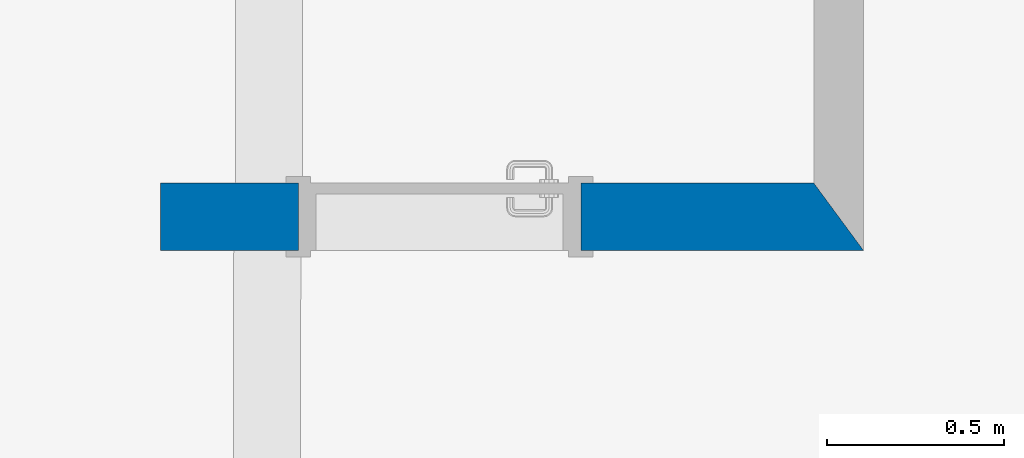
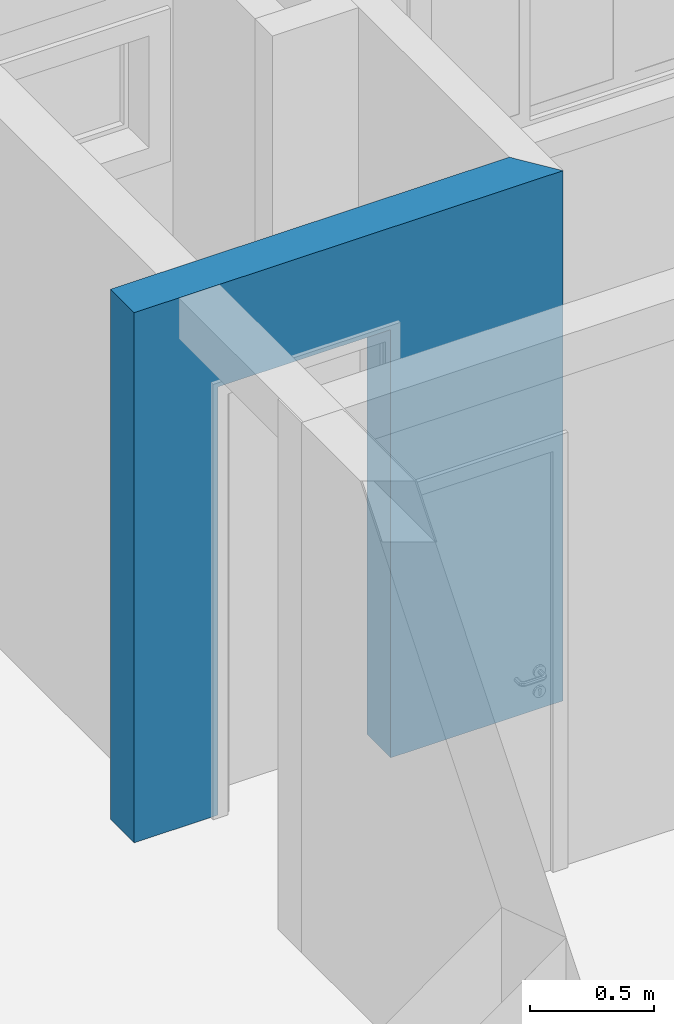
# One storey, part 7 of 43: 1 wall, 1 opening.
"""IFC2X3 building model written with IfcOpenShell, lengths in millimetres."""

from ifc_helpers import new_model, entity, si_unit, converted_unit, derived_unit, money_unit, direction, frame, origin_with_axes, origin_2d_with_axis, place, context, subcontext, project, spatial, polyline, rectangle, outline, extrude, material, layer, layer_set, layer_usage, type_object, element, save


model = new_model("IFC2X3")

# Units and contexts
model_context = context("Model", 3, precision=0.01, world=origin_with_axes(), true_north=direction((0.0, 1.0)))
body_context = subcontext(model_context, "Body", "Model", "MODEL_VIEW")
ifc_project = project(units=[si_unit("LENGTHUNIT", "METRE", prefix="MILLI"), si_unit("AREAUNIT", "SQUARE_METRE"), si_unit("VOLUMEUNIT", "CUBIC_METRE"), converted_unit("PLANEANGLEUNIT", "DEGREE", entity("IfcPlaneAngleMeasure", 0.0174532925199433), si_unit("PLANEANGLEUNIT", "RADIAN"), dimensions=[0, 0, 0, 0, 0, 0, 0]), money_unit("USD"), converted_unit("TIMEUNIT", "Year", entity("IfcTimeMeasure", 31557600.0), si_unit("TIMEUNIT", "SECOND"), dimensions=[0, 0, 1, 0, 0, 0, 0]), si_unit("MASSUNIT", "GRAM", prefix="KILO"), si_unit("THERMODYNAMICTEMPERATUREUNIT", "DEGREE_CELSIUS"), si_unit("LUMINOUSINTENSITYUNIT", "LUMEN"), si_unit("ENERGYUNIT", "JOULE", prefix="MEGA"), derived_unit("THERMALCONDUCTANCEUNIT", [(si_unit("POWERUNIT", "WATT"), 1), (si_unit("LENGTHUNIT", "METRE"), -1), (si_unit("THERMODYNAMICTEMPERATUREUNIT", "KELVIN"), -1)]), derived_unit("SPECIFICHEATCAPACITYUNIT", [(si_unit("ENERGYUNIT", "JOULE"), 1), (si_unit("MASSUNIT", "GRAM", prefix="KILO"), -1), (si_unit("THERMODYNAMICTEMPERATUREUNIT", "KELVIN"), -1)]), derived_unit("MASSDENSITYUNIT", [(si_unit("MASSUNIT", "GRAM", prefix="KILO"), 1), (si_unit("VOLUMEUNIT", "CUBIC_METRE"), -1)])], contexts=[model_context])

# Site, building, storey
site_placement = place(None, origin_with_axes())
site = spatial("IfcSite", under=ifc_project, at=site_placement, Name="Local", CompositionType="ELEMENT")
building_placement = place(site_placement, origin_with_axes())
building = spatial("IfcBuilding", under=site, at=building_placement, Name="Construção", CompositionType="ELEMENT")
storey_placement = place(building_placement, origin_with_axes())
storey = spatial("IfcBuildingStorey", under=building, at=storey_placement, Name="Pavimento Tipo", CompositionType="ELEMENT", Elevation=0.0)

# Wall, opening
ifc_material = material(Name="Concreto - Estrutural")
ifc_layer = layer(ifc_material, 190.0, ventilated="UNKNOWN")
ifc_layer_set = layer_set([ifc_layer], Name="Concreto - Estrutural 190")
ifc_layer_usage = layer_usage(ifc_layer_set, "AXIS2", "NEGATIVE", 190.0)
wall_type = type_object("IfcWallType", Name="Concreto - Estrutural 190", PredefinedType="NOTDEFINED")
wall_placement = place(storey_placement, frame((59307.434598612, -3767.538479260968, 0.0), z_axis=(0.0, 0.0, 1.0), x_axis=(-1.0, 0.0, 0.0)))
wall = element("IfcWallStandardCase", 1, at=wall_placement, inside=storey, type_object=wall_type, material=ifc_layer_usage, Name="Apartamento 3 - Parede-008", context=body_context, shape_type="SweptSolid", body=[
    extrude(outline(polyline([(140.0000000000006, 0.0), (1990.000000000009, 0.0), (1990.000000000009, 189.9999999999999), (0.0, 189.9999999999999), (140.0000000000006, 0.0)])), origin_with_axes(), (0.0, 0.0, 1.0), 2600.0),
])
opening_placement = place(wall_placement, frame((1200.00000000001, 0.0, 0.0), z_axis=(0.0, 0.0, 1.0), x_axis=(1.0, 0.0, 0.0)))
element("IfcOpeningElement", 2, at=opening_placement, cuts=wall, Name="Apartamento 3 - P02", context=body_context, shape_type="SweptSolid", body=[
    extrude(rectangle(XDim=799.9999999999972, YDim=2100.0, at=origin_2d_with_axis()), frame((0.0, -189.9999999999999, 1050.0), z_axis=(0.0, -1.0, 0.0), x_axis=(1.0, 0.0, 0.0)), (0.0, 0.0, -1.0), 570.0000000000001),
    extrude(rectangle(XDim=870.0000000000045, YDim=2135.0, at=origin_2d_with_axis()), frame((0.0, 0.0, 1067.5), z_axis=(0.0, -1.0, 0.0), x_axis=(1.0, 0.0, 0.0)), (0.0, 0.0, 1.0), 190.0),
    extrude(rectangle(XDim=870.0000000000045, YDim=2135.0, at=origin_2d_with_axis()), frame((0.0, 190.0000000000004, 1067.5), z_axis=(0.0, 1.0, 0.0), x_axis=(1.0, 0.0, 0.0)), (0.0, 0.0, 1.0), 190.0),
])

save(model, "model.ifc")
